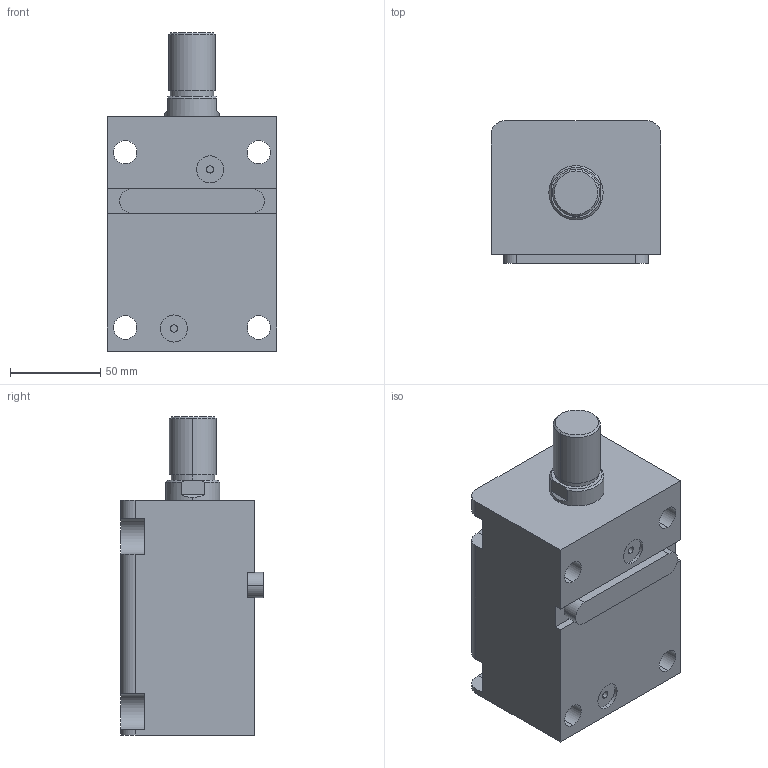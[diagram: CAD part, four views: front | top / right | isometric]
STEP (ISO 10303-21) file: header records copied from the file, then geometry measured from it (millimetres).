
FILE_DESCRIPTION (( 'STEP AP203' ), '1' );
FILE_NAME ('HTB-LAM50-70W.STEP', '2023-03-20T01:09:09', ( '微软用户' ), ( '微软中国' ), 'SwSTEP 2.0', 'SolidWorks 2012', '' );
FILE_SCHEMA (( 'CONFIG_CONTROL_DESIGN' ));
Length unit declared in the file: millimetre
Products named in the file (4): HTB-LAM50-70W; HTB-LWM50-瑩; HTB-LAM50-70W活塞杆; HTB-LAM50-70掛极
Assembly tree (3 placements, depth 2):
  HTB-LAM50-70W
    HTB-LAM50-70掛极
    HTB-LAM50-70W活塞杆
    HTB-LWM50-瑩
Bounding box: 94 x 79 x 176 mm (x, y, z)
Volume: 792039.6 mm3; surface area: 112000.1 mm2
Topology: 3 solids, 3 shells, 90 faces, 219 edges, 144 vertices
Faces by surface type: cylinder 41, plane 41, cone 4, torus 4
Entity records: 3107 total; most frequent: DIRECTION 497, CARTESIAN_POINT 487, ORIENTED_EDGE 438, EDGE_CURVE 219, AXIS2_PLACEMENT_3D 190, VERTEX_POINT 144, LINE 117, VECTOR 117
